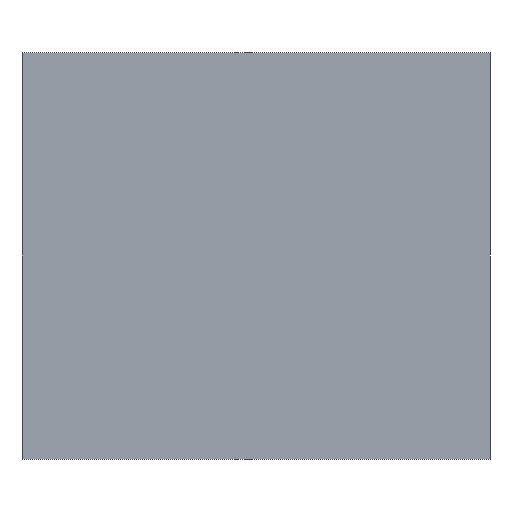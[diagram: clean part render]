
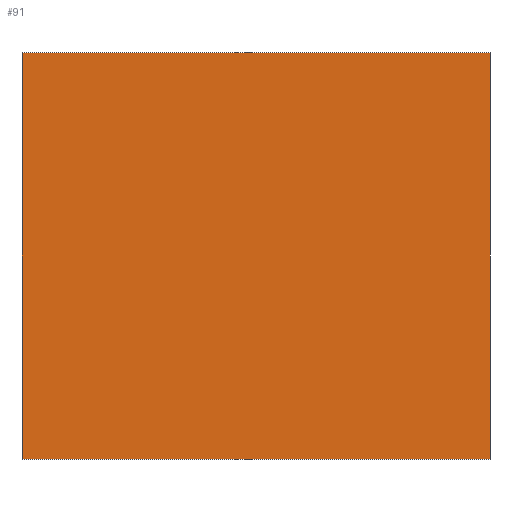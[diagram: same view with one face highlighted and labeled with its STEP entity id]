
A CAD part, front view. The second image highlights one B-rep face of the part: STEP entity #91.
In plain terms, the highlighted planar face has unit normal (0, -1, 0).
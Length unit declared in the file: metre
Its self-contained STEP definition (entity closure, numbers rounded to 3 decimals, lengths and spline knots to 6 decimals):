
#91 = ADVANCED_FACE( '', ( #147 ), #148, .F. );
#147 = FACE_OUTER_BOUND( '', #255, .T. );
#148 = PLANE( '', #256 );
#255 = EDGE_LOOP( '', ( #378, #379, #380, #381 ) );
#256 = AXIS2_PLACEMENT_3D( '', #382, #383, #384 );
#378 = ORIENTED_EDGE( '', *, *, #786, .T. );
#379 = ORIENTED_EDGE( '', *, *, #787, .F. );
#380 = ORIENTED_EDGE( '', *, *, #782, .F. );
#381 = ORIENTED_EDGE( '', *, *, #785, .T. );
#382 = CARTESIAN_POINT( '', ( 0., 0., 0.04 ) );
#383 = DIRECTION( '', ( 0., 1., 0. ) );
#384 = DIRECTION( '', ( 0., 0., 1. ) );
#782 = EDGE_CURVE( '', #917, #919, #920, .T. );
#785 = EDGE_CURVE( '', #917, #922, #924, .T. );
#786 = EDGE_CURVE( '', #922, #925, #926, .T. );
#787 = EDGE_CURVE( '', #919, #925, #927, .T. );
#917 = VERTEX_POINT( '', #1141 );
#919 = VERTEX_POINT( '', #1144 );
#920 = LINE( '', #1145, #1146 );
#922 = VERTEX_POINT( '', #1149 );
#924 = LINE( '', #1152, #1153 );
#925 = VERTEX_POINT( '', #1154 );
#926 = LINE( '', #1155, #1156 );
#927 = LINE( '', #1157, #1158 );
#1141 = CARTESIAN_POINT( '', ( 0., 0., 0.04 ) );
#1144 = CARTESIAN_POINT( '', ( 0.046, 0., 0.04 ) );
#1145 = CARTESIAN_POINT( '', ( 0., 0., 0.04 ) );
#1146 = VECTOR( '', #1446, 1. );
#1149 = CARTESIAN_POINT( '', ( 0., 0., 0. ) );
#1152 = CARTESIAN_POINT( '', ( 0., 0., 0.04 ) );
#1153 = VECTOR( '', #1449, 1. );
#1154 = CARTESIAN_POINT( '', ( 0.046, 0., 0. ) );
#1155 = CARTESIAN_POINT( '', ( 0., 0., 0. ) );
#1156 = VECTOR( '', #1450, 1. );
#1157 = CARTESIAN_POINT( '', ( 0.046, 0., 0.04 ) );
#1158 = VECTOR( '', #1451, 1. );
#1446 = DIRECTION( '', ( 1., 0., 0. ) );
#1449 = DIRECTION( '', ( 0., 0., -1. ) );
#1450 = DIRECTION( '', ( 1., 0., 0. ) );
#1451 = DIRECTION( '', ( 0., 0., -1. ) );
